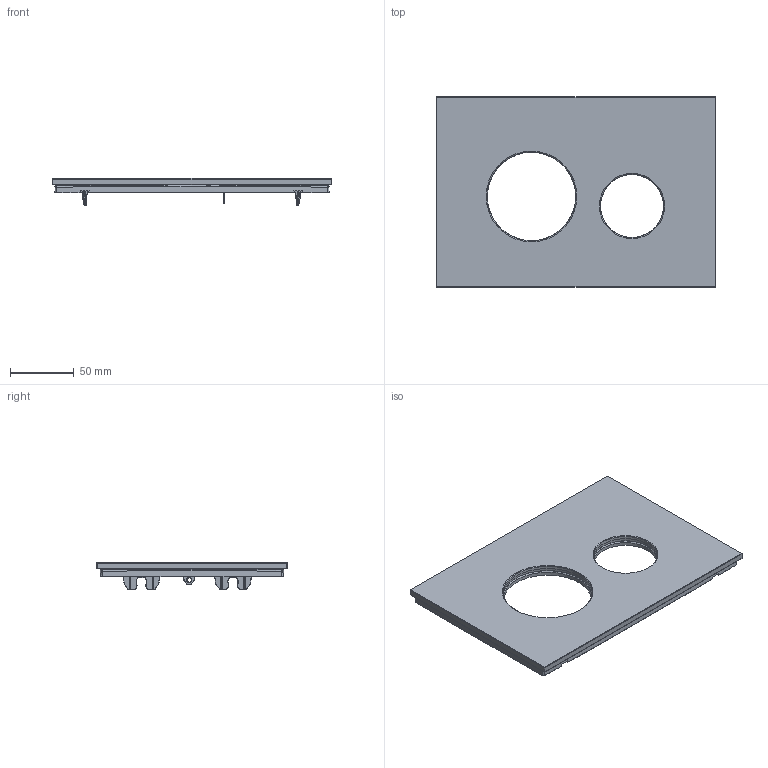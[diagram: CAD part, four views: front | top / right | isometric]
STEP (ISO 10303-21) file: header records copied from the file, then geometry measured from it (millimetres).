
FILE_DESCRIPTION((''),'2;1');
FILE_NAME('9_240_679_ASM','2012-09-07T',('mmeiser'),('NET'),'PRO/ENGINEER BY PARAMETRIC TECHNOLOGY CORPORATION, 2010230','PRO/ENGINEER BY PARAMETRIC TECHNOLOGY CORPORATION, 2010230','');
FILE_SCHEMA(('AUTOMOTIVE_DESIGN_CC2 { 1 2 10303 214 -1 1 5 2 }'));
Products named in the file (4): SP860_001_00; SP860_006_01; VP210_232_99_ASM; 9_240_679_ASM
Assembly tree (3 placements, depth 3):
  9_240_679_ASM
    VP210_232_99_ASM
      SP860_001_00
      SP860_006_01
Bounding box: 220 x 150 x 21.25 mm (x, y, z)
Volume: 226390 mm3; surface area: 119297.1 mm2
Topology: 2 solids, 2 shells, 896 faces, 2051 edges, 1164 vertices
Faces by surface type: cylinder 396, bspline 270, plane 178, sphere 26, cone 26
Entity records: 42296 total; most frequent: CARTESIAN_POINT 17874, ORIENTED_EDGE 4102, DIRECTION 3288, PRESENTATION_STYLE_ASSIGNMENT 2053, STYLED_ITEM 2053, CURVE_STYLE 2051, EDGE_CURVE 2051, AXIS2_PLACEMENT_3D 1207
